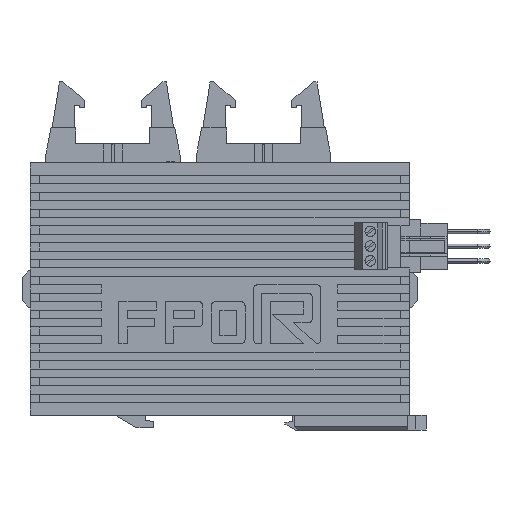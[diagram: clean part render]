
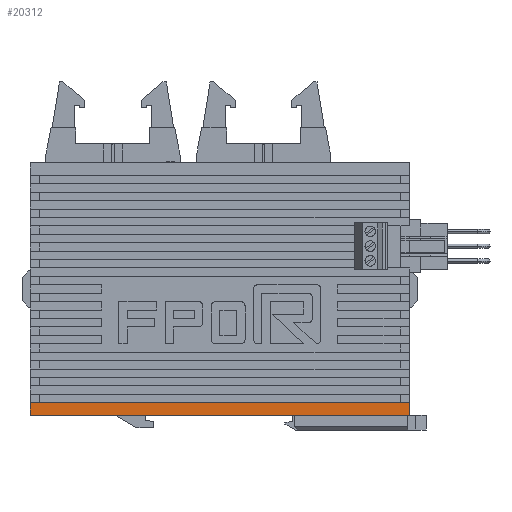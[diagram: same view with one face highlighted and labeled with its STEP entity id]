
A CAD part, left-side view. The second image highlights one B-rep face of the part: STEP entity #20312.
In plain terms, the highlighted planar face has unit normal (-1, 0, 0).
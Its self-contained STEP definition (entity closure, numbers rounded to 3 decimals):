
#3177 = CARTESIAN_POINT ( 'NONE',  ( -15., -45., 0. ) ) ;
#3350 = DIRECTION ( 'NONE',  ( 0., -1., 0. ) ) ;
#3351 = VECTOR ( 'NONE', #3350, 1000. ) ;
#3352 = CARTESIAN_POINT ( 'NONE',  ( -15., 45., 0. ) ) ;
#3353 = LINE ( 'NONE', #3352, #3351 ) ;
#3355 = CARTESIAN_POINT ( 'NONE',  ( -15., 45., 0. ) ) ;
#18062 = VERTEX_POINT ( 'NONE', #29987 ) ;
#18143 = EDGE_CURVE ( 'NONE', #18062, #22627, #30092, .T. ) ;
#20263 = EDGE_CURVE ( 'NONE', #20307, #18062, #39798, .T. ) ;
#20307 = VERTEX_POINT ( 'NONE', #39901 ) ;
#20310 = ORIENTED_EDGE ( 'NONE', *, *, #20263, .F. ) ;
#20312 = ADVANCED_FACE ( 'NONE', ( #39847 ), #39898, .F. ) ;
#20313 = EDGE_LOOP ( 'NONE', ( #20316, #20310, #20318, #20317 ) ) ;
#20316 = ORIENTED_EDGE ( 'NONE', *, *, #18143, .F. ) ;
#20317 = ORIENTED_EDGE ( 'NONE', *, *, #22706, .T. ) ;
#20318 = ORIENTED_EDGE ( 'NONE', *, *, #20319, .T. ) ;
#20319 = EDGE_CURVE ( 'NONE', #20307, #22707, #39888, .T. ) ;
#22627 = VERTEX_POINT ( 'NONE', #3177 ) ;
#22706 = EDGE_CURVE ( 'NONE', #22707, #22627, #3353, .T. ) ;
#22707 = VERTEX_POINT ( 'NONE', #3355 ) ;
#29987 = CARTESIAN_POINT ( 'NONE',  ( -15., -45., 3. ) ) ;
#30089 = DIRECTION ( 'NONE',  ( 0., 0., -1. ) ) ;
#30090 = VECTOR ( 'NONE', #30089, 1000. ) ;
#30091 = CARTESIAN_POINT ( 'NONE',  ( -15., -45., 60. ) ) ;
#30092 = LINE ( 'NONE', #30091, #30090 ) ;
#39795 = DIRECTION ( 'NONE',  ( 0., -1., 0. ) ) ;
#39796 = VECTOR ( 'NONE', #39795, 1000. ) ;
#39797 = CARTESIAN_POINT ( 'NONE',  ( -15., 45., 3. ) ) ;
#39798 = LINE ( 'NONE', #39797, #39796 ) ;
#39847 = FACE_OUTER_BOUND ( 'NONE', #20313, .T. ) ;
#39874 = DIRECTION ( 'NONE',  ( 0., 0., -1. ) ) ;
#39875 = VECTOR ( 'NONE', #39874, 1000. ) ;
#39880 = CARTESIAN_POINT ( 'NONE',  ( -15., 45., 60. ) ) ;
#39881 = DIRECTION ( 'NONE',  ( 0., 1., 0. ) ) ;
#39882 = DIRECTION ( 'NONE',  ( 1., 0., 0. ) ) ;
#39883 = CARTESIAN_POINT ( 'NONE',  ( -15., 45., 60. ) ) ;
#39884 = AXIS2_PLACEMENT_3D ( 'NONE', #39883, #39882, #39881 ) ;
#39888 = LINE ( 'NONE', #39880, #39875 ) ;
#39898 = PLANE ( 'NONE',  #39884 ) ;
#39901 = CARTESIAN_POINT ( 'NONE',  ( -15., 45., 3. ) ) ;
